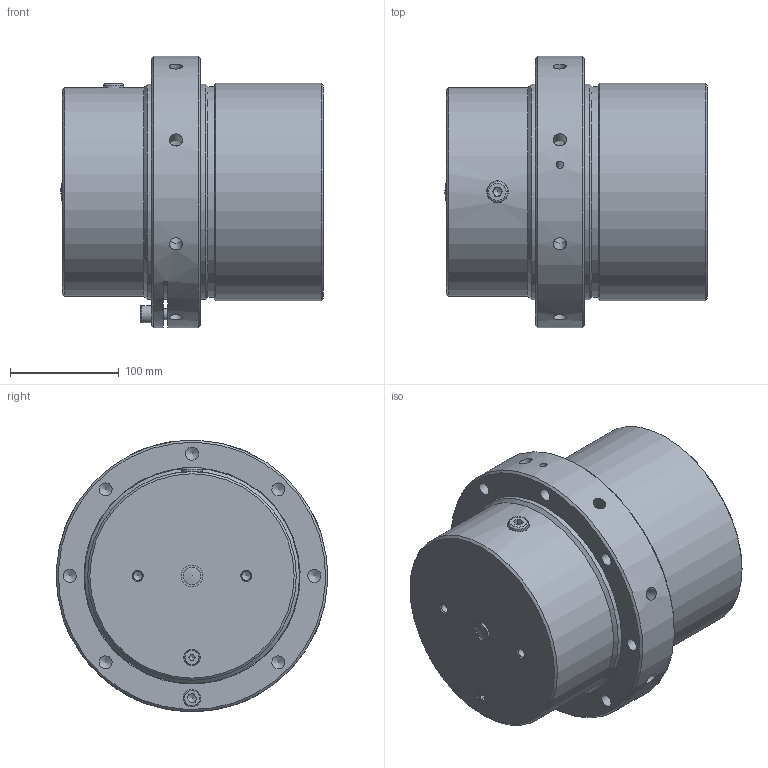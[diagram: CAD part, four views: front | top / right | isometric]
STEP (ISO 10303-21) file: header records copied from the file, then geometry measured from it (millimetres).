
FILE_DESCRIPTION( ( 'Unknown' ), '1' );
FILE_NAME( 'F:/JAKOB-STEP+IGES-Dateien/STEP-Dateien/ZSF/ZSF 35000.stp', 'Unknown', ( 'Unknown' ), ( 'Unknown' ), 'PSStep 10.1', 'Unknown', ' ' );
FILE_SCHEMA( ( 'AUTOMOTIVE_DESIGN { 1 0 10303 214 1 1 1 1 }' ) );
Length unit declared in the file: millimetre
Products named in the file (1): KT101928
Bounding box: 241.4 x 249.76 x 249.88 mm (x, y, z)
Volume: 7901626.5 mm3; surface area: 292318.5 mm2
Topology: 1 solids, 6 shells, 165 faces, 389 edges, 250 vertices
Faces by surface type: plane 64, cylinder 54, cone 41, torus 3, bspline 2, sphere 1
Full cylindrical faces by diameter (mm): 5 x1, 6.8 x1, 8.376 x3, 8.85 x1, 8.917 x2, 9 x1, 10 x1, 10.4 x2, 11.5 x1, 11.8 x3, 12 x18, 12.5 x1, 14 x1, 15 x1, 16 x2, 19 x1, 20 x2, 50.5 x1, 53 x1, 192 x1, 194 x1, 198 x2, 200 x1, 250 x1
Entity records: 5971 total; most frequent: CARTESIAN_POINT 1520, DIRECTION 676, ORIENTED_EDGE 446, AXIS2_PLACEMENT_3D 300, EDGE_LOOP 290, EDGE_CURVE 223, FACE_OUTER_BOUND 220, VERTEX_POINT 205
